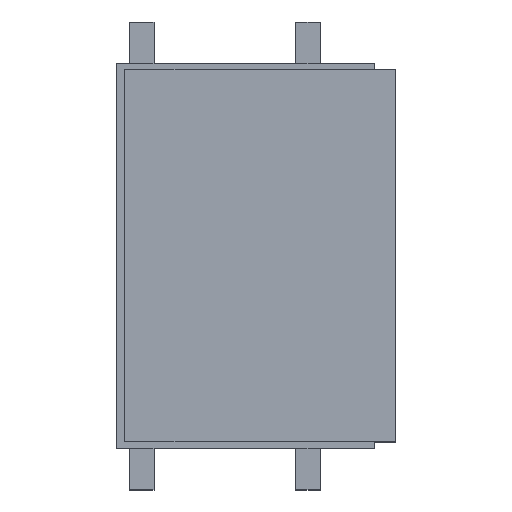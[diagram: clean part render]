
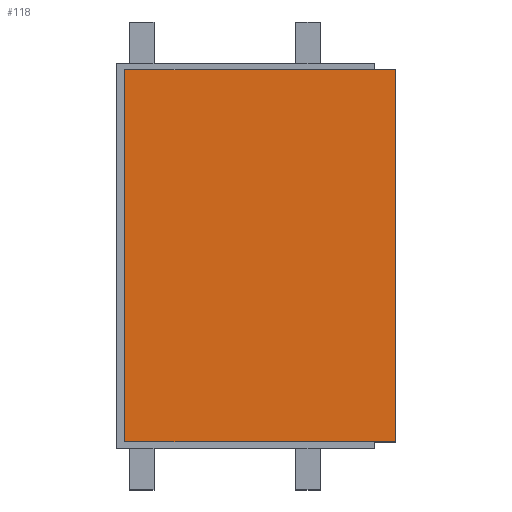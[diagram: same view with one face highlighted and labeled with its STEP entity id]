
A CAD part, top view. The second image highlights one B-rep face of the part: STEP entity #118.
In plain terms, the highlighted planar face has unit normal (0, 0, 1).
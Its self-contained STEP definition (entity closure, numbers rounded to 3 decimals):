
#54 = VERTEX_POINT('',#55);
#55 = CARTESIAN_POINT('',(-6.,-4.47,1.06));
#70 = VERTEX_POINT('',#71);
#71 = CARTESIAN_POINT('',(-6.,4.47,1.06));
#77 = EDGE_CURVE('',#54,#70,#78,.T.);
#78 = LINE('',#79,#80);
#79 = CARTESIAN_POINT('',(-6.,-4.47,1.06));
#80 = VECTOR('',#81,1.);
#81 = DIRECTION('',(-0.,1.,0.));
#100 = EDGE_CURVE('',#54,#101,#103,.T.);
#101 = VERTEX_POINT('',#102);
#102 = CARTESIAN_POINT('',(0.5,-4.47,1.06));
#103 = LINE('',#104,#105);
#104 = CARTESIAN_POINT('',(-6.,-4.47,1.06));
#105 = VECTOR('',#106,1.);
#106 = DIRECTION('',(1.,0.,-0.));
#118 = ADVANCED_FACE('',(#119),#137,.T.);
#119 = FACE_BOUND('',#120,.T.);
#120 = EDGE_LOOP('',(#121,#122,#123,#131));
#121 = ORIENTED_EDGE('',*,*,#77,.F.);
#122 = ORIENTED_EDGE('',*,*,#100,.T.);
#123 = ORIENTED_EDGE('',*,*,#124,.T.);
#124 = EDGE_CURVE('',#101,#125,#127,.T.);
#125 = VERTEX_POINT('',#126);
#126 = CARTESIAN_POINT('',(0.5,4.47,1.06));
#127 = LINE('',#128,#129);
#128 = CARTESIAN_POINT('',(0.5,-4.47,1.06));
#129 = VECTOR('',#130,1.);
#130 = DIRECTION('',(-0.,1.,0.));
#131 = ORIENTED_EDGE('',*,*,#132,.F.);
#132 = EDGE_CURVE('',#70,#125,#133,.T.);
#133 = LINE('',#134,#135);
#134 = CARTESIAN_POINT('',(-6.,4.47,1.06));
#135 = VECTOR('',#136,1.);
#136 = DIRECTION('',(1.,0.,-0.));
#137 = PLANE('',#138);
#138 = AXIS2_PLACEMENT_3D('',#139,#140,#141);
#139 = CARTESIAN_POINT('',(-6.,-4.47,1.06));
#140 = DIRECTION('',(0.,0.,1.));
#141 = DIRECTION('',(1.,0.,-0.));
